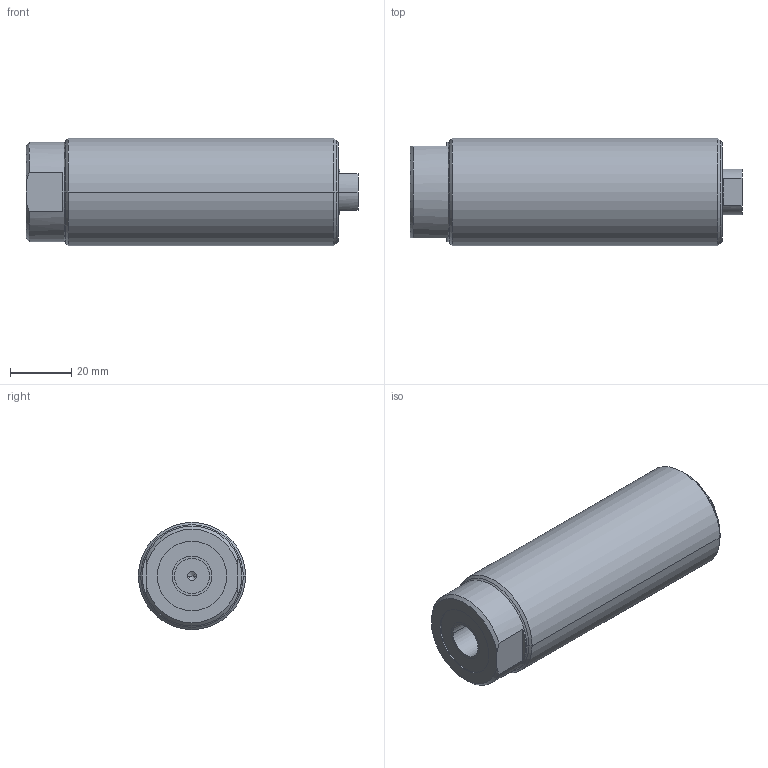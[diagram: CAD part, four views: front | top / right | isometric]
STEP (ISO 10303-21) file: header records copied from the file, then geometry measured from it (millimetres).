
FILE_DESCRIPTION((''),'2;1');
FILE_NAME('CST-18382_ASM','2010-11-23T',('chad.steele'),(''),'PRO/ENGINEER BY PARAMETRIC TECHNOLOGY CORPORATION, 2010040','PRO/ENGINEER BY PARAMETRIC TECHNOLOGY CORPORATION, 2010040','');
FILE_SCHEMA(('CONFIG_CONTROL_DESIGN'));
Length unit declared in the file: millimetre
Products named in the file (4): DC6058030; DC6038044; DC4746040; CST-18382_ASM
Assembly tree (3 placements, depth 2):
  CST-18382_ASM
    DC6058030
    DC6038044
    DC4746040
Bounding box: 108.4 x 35 x 35 mm (x, y, z)
Volume: 76436.9 mm3; surface area: 40939.4 mm2
Topology: 3 solids, 8 shells, 103 faces, 242 edges, 150 vertices
Faces by surface type: cylinder 42, plane 29, cone 20, torus 12
Entity records: 3152 total; most frequent: DIRECTION 594, CARTESIAN_POINT 580, ORIENTED_EDGE 456, AXIS2_PLACEMENT_3D 252, EDGE_CURVE 238, VERTEX_POINT 150, CIRCLE 136, EDGE_LOOP 116
